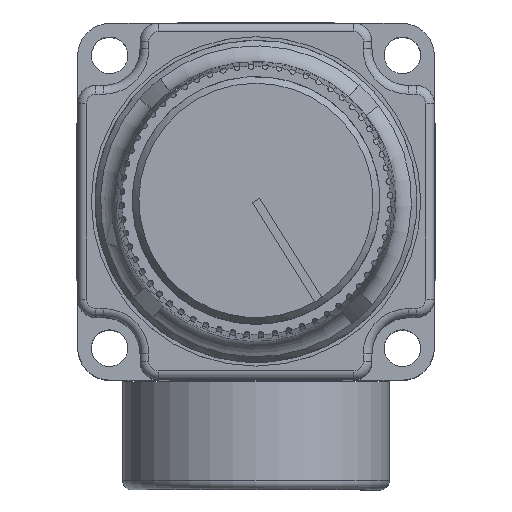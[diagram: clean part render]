
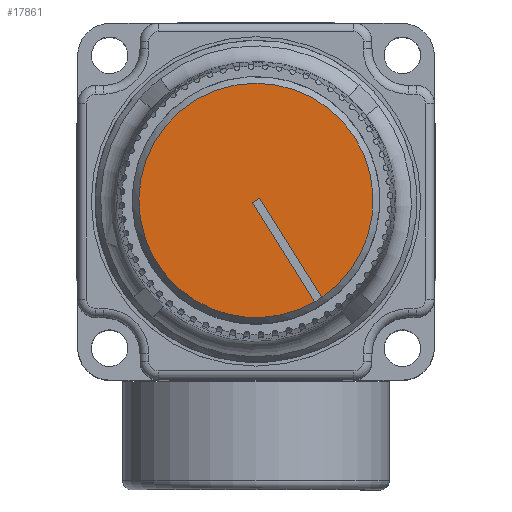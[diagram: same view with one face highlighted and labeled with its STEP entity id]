
A CAD part, top view. The second image highlights one B-rep face of the part: STEP entity #17861.
In plain terms, the highlighted planar face has unit normal (0, 0, 1).
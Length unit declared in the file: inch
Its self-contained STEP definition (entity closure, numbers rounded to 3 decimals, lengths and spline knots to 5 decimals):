
#425=PLANE('',#19177);
#1065=CIRCLE('',#19178,0.4);
#1066=CIRCLE('',#19179,0.4);
#2157=FACE_OUTER_BOUND('',#3167,.T.);
#3167=EDGE_LOOP('',(#12376,#12377,#12378,#12379,#12380));
#4625=LINE('',#28977,#5861);
#4626=LINE('',#28983,#5862);
#4627=LINE('',#28984,#5863);
#5861=VECTOR('',#22199,0.3937);
#5862=VECTOR('',#22204,0.3937);
#5863=VECTOR('',#22205,0.3937);
#7167=VERTEX_POINT('',#28975);
#7168=VERTEX_POINT('',#28976);
#7169=VERTEX_POINT('',#28978);
#7170=VERTEX_POINT('',#28980);
#7171=VERTEX_POINT('',#28982);
#9118=EDGE_CURVE('',#7167,#7168,#4625,.T.);
#9119=EDGE_CURVE('',#7168,#7169,#1065,.T.);
#9120=EDGE_CURVE('',#7169,#7170,#1066,.T.);
#9121=EDGE_CURVE('',#7170,#7171,#4626,.T.);
#9122=EDGE_CURVE('',#7171,#7167,#4627,.T.);
#12376=ORIENTED_EDGE('',*,*,#9118,.T.);
#12377=ORIENTED_EDGE('',*,*,#9119,.T.);
#12378=ORIENTED_EDGE('',*,*,#9120,.T.);
#12379=ORIENTED_EDGE('',*,*,#9121,.T.);
#12380=ORIENTED_EDGE('',*,*,#9122,.T.);
#17861=ADVANCED_FACE('',(#2157),#425,.T.);
#19177=AXIS2_PLACEMENT_3D('',#28974,#22197,#22198);
#19178=AXIS2_PLACEMENT_3D('',#28979,#22200,#22201);
#19179=AXIS2_PLACEMENT_3D('',#28981,#22202,#22203);
#22197=DIRECTION('center_axis',(0.,0.,1.));
#22198=DIRECTION('ref_axis',(1.,0.,0.));
#22199=DIRECTION('',(0.532,-0.847,0.));
#22200=DIRECTION('center_axis',(0.,0.,1.));
#22201=DIRECTION('ref_axis',(0.847,0.532,0.));
#22202=DIRECTION('center_axis',(0.,0.,1.));
#22203=DIRECTION('ref_axis',(0.847,0.532,0.));
#22204=DIRECTION('',(-0.532,0.847,0.));
#22205=DIRECTION('',(0.847,0.532,0.));
#28974=CARTESIAN_POINT('Origin',(-1.00361,-0.17832,1.8705));
#28975=CARTESIAN_POINT('',(-0.64552,0.04626,1.8705));
#28976=CARTESIAN_POINT('',(-0.43303,-0.2923,1.8705));
#28977=CARTESIAN_POINT('',(-0.64552,0.04626,1.8705));
#28978=CARTESIAN_POINT('',(-0.81038,-0.33165,1.8705));
#28979=CARTESIAN_POINT('Origin',(-0.65823,0.03828,
1.8705));
#28980=CARTESIAN_POINT('',(-0.45844,-0.30825,1.8705));
#28981=CARTESIAN_POINT('Origin',(-0.65823,0.03828,
1.8705));
#28982=CARTESIAN_POINT('',(-0.67093,0.03031,1.8705));
#28983=CARTESIAN_POINT('',(-0.45844,-0.30825,1.8705));
#28984=CARTESIAN_POINT('',(-0.67093,0.03031,1.8705));
